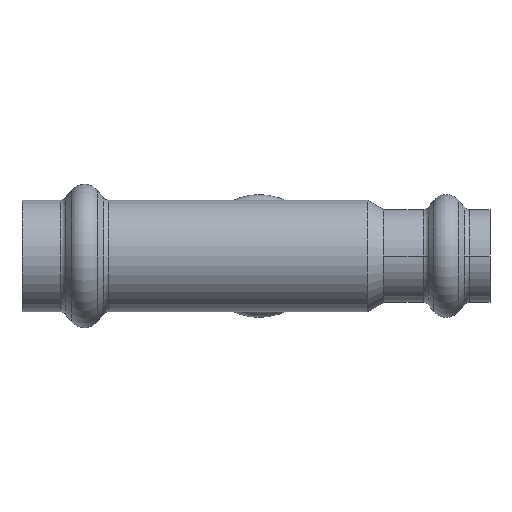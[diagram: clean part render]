
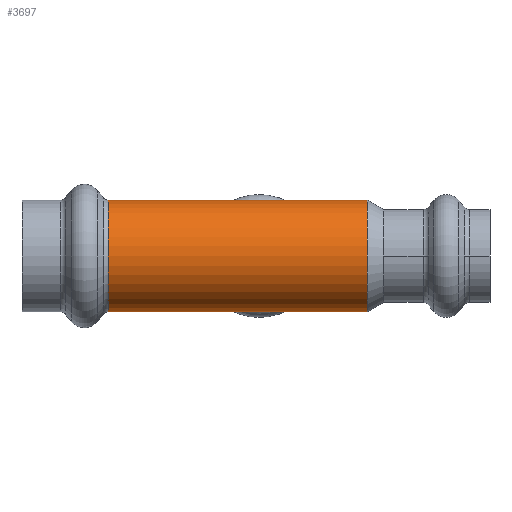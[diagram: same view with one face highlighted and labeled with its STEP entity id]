
A CAD part, front view. The second image highlights one B-rep face of the part: STEP entity #3697.
In plain terms, the highlighted cylindrical face has radius 8.95 mm (diameter 17.9 mm), a partial arc.
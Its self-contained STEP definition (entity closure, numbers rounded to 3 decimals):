
#64 = CARTESIAN_POINT ( 'NONE',  ( -24.147, 0., 8.95 ) ) ;
#142 = CARTESIAN_POINT ( 'NONE',  ( -24.147, 0., -8.95 ) ) ;
#176 = EDGE_CURVE ( 'NONE', #3437, #2615, #4260, .T. ) ;
#306 = DIRECTION ( 'NONE',  ( 1., 0., 0. ) ) ;
#432 = DIRECTION ( 'NONE',  ( 0., 0., 1. ) ) ;
#593 = ORIENTED_EDGE ( 'NONE', *, *, #4033, .T. ) ;
#596 = CIRCLE ( 'NONE', #3203, 8.95 ) ;
#605 = ORIENTED_EDGE ( 'NONE', *, *, #176, .F. ) ;
#916 = DIRECTION ( 'NONE',  ( 0., 0., 1. ) ) ;
#960 = VECTOR ( 'NONE', #2673, 1000. ) ;
#1302 = CARTESIAN_POINT ( 'NONE',  ( -58.611, 0., 0. ) ) ;
#1486 = EDGE_CURVE ( 'NONE', #3906, #3437, #4309, .T. ) ;
#1566 = CARTESIAN_POINT ( 'NONE',  ( -58.611, 0., 8.95 ) ) ;
#1725 = EDGE_LOOP ( 'NONE', ( #605, #3855, #4541, #593 ) ) ;
#2062 = DIRECTION ( 'NONE',  ( -1., 0., 0. ) ) ;
#2570 = CYLINDRICAL_SURFACE ( 'NONE', #3820, 8.95 ) ;
#2598 = CARTESIAN_POINT ( 'NONE',  ( -24.147, 0., 0. ) ) ;
#2615 = VERTEX_POINT ( 'NONE', #142 ) ;
#2673 = DIRECTION ( 'NONE',  ( -1., 0., 0. ) ) ;
#2898 = CARTESIAN_POINT ( 'NONE',  ( 17.347, 0., 0. ) ) ;
#2964 = CARTESIAN_POINT ( 'NONE',  ( 17.347, 0., -8.95 ) ) ;
#2969 = DIRECTION ( 'NONE',  ( 0., 0., -1. ) ) ;
#3203 = AXIS2_PLACEMENT_3D ( 'NONE', #2598, #306, #2969 ) ;
#3224 = EDGE_CURVE ( 'NONE', #3906, #3286, #3990, .T. ) ;
#3239 = VECTOR ( 'NONE', #2062, 1000. ) ;
#3286 = VERTEX_POINT ( 'NONE', #64 ) ;
#3374 = DIRECTION ( 'NONE',  ( 1., 0., 0. ) ) ;
#3437 = VERTEX_POINT ( 'NONE', #2964 ) ;
#3697 = ADVANCED_FACE ( 'NONE', ( #4691 ), #2570, .T. ) ;
#3807 = CARTESIAN_POINT ( 'NONE',  ( -58.611, 0., -8.95 ) ) ;
#3820 = AXIS2_PLACEMENT_3D ( 'NONE', #1302, #3952, #916 ) ;
#3855 = ORIENTED_EDGE ( 'NONE', *, *, #1486, .F. ) ;
#3906 = VERTEX_POINT ( 'NONE', #4398 ) ;
#3952 = DIRECTION ( 'NONE',  ( -1., 0., 0. ) ) ;
#3990 = LINE ( 'NONE', #1566, #960 ) ;
#4033 = EDGE_CURVE ( 'NONE', #3286, #2615, #596, .T. ) ;
#4260 = LINE ( 'NONE', #3807, #3239 ) ;
#4309 = CIRCLE ( 'NONE', #4843, 8.95 ) ;
#4398 = CARTESIAN_POINT ( 'NONE',  ( 17.347, 0., 8.95 ) ) ;
#4541 = ORIENTED_EDGE ( 'NONE', *, *, #3224, .T. ) ;
#4691 = FACE_OUTER_BOUND ( 'NONE', #1725, .T. ) ;
#4843 = AXIS2_PLACEMENT_3D ( 'NONE', #2898, #3374, #432 ) ;
